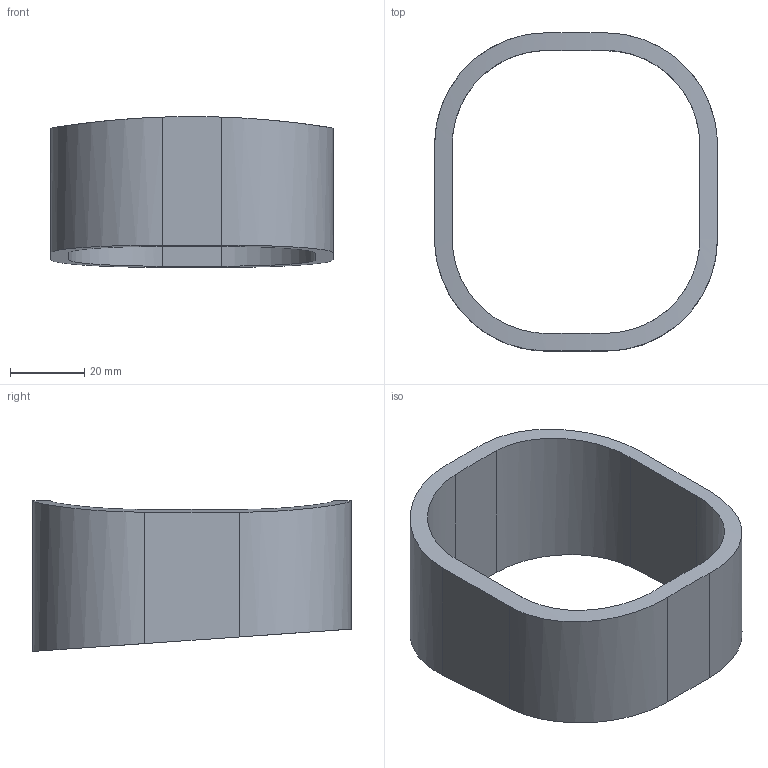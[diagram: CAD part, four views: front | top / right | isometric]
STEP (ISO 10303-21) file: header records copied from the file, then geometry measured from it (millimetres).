
FILE_DESCRIPTION(/* description */ ('Alibre Inc.'),/* implementation_level */ '2;1');
FILE_NAME(/* name */ 'export0',/* time_stamp */ '2013-03-05T19:49:57-05:00',/* author */ (''),/* organization */ (''),/* preprocessor_version */ 'ST-DEVELOPER v14',/* originating_system */ 'Alibre',/* authorisation */ '');
FILE_SCHEMA (('CONFIG_CONTROL_DESIGN'));
Length unit declared in the file: centimetre
Products named in the file (1): ID_1
Bounding box: 76.2 x 85.72 x 40.62 mm (x, y, z)
Volume: 44116.2 mm3; surface area: 20981 mm2
Topology: 1 solids, 1 shells, 18 faces, 48 edges, 32 vertices
Faces by surface type: plane 9, cylinder 9
Entity records: 800 total; most frequent: CARTESIAN_POINT 270, ORIENTED_EDGE 96, DIRECTION 79, EDGE_CURVE 48, VERTEX_POINT 32, AXIS2_PLACEMENT_3D 30, VECTOR 28, LINE 28
